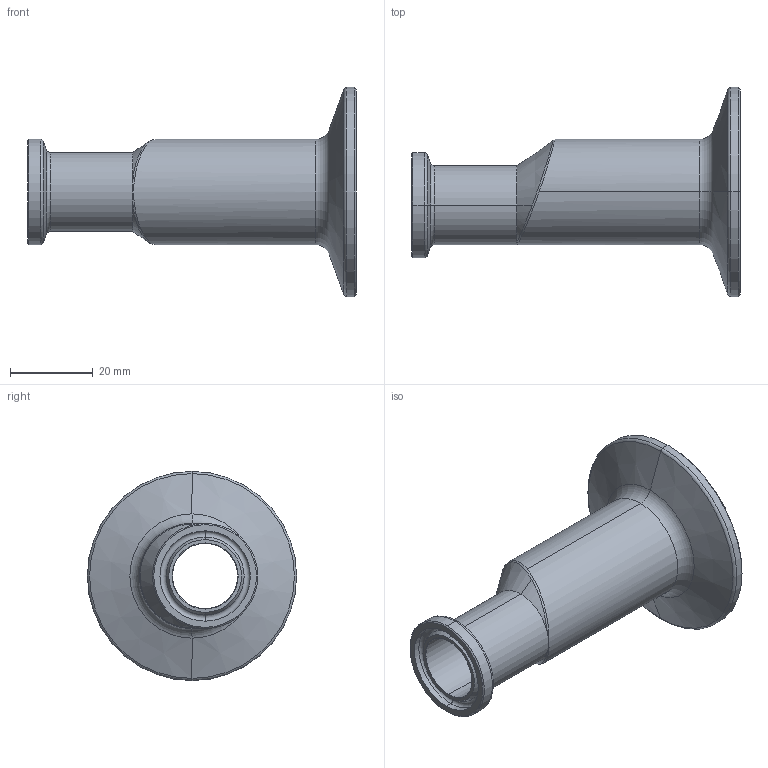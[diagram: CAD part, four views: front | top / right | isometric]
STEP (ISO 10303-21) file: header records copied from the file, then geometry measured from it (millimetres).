
FILE_DESCRIPTION (( 'STEP AP214' ), '1' );
FILE_NAME ('TEG32SCC6L1.0x.75-...STEP', '2016-06-01T12:37:21', ( 'eran' ), ( '' ), 'SwSTEP 2.0', 'SolidWorks 2016', '' );
FILE_SCHEMA (( 'AUTOMOTIVE_DESIGN' ));
Length unit declared in the file: millimetre
Products named in the file (1): TEG32SCC6L1.0x.75-..
Bounding box: 79.38 x 50.5 x 50.5 mm (x, y, z)
Volume: 22998.8 mm3; surface area: 13916 mm2
Topology: 1 solids, 1 shells, 63 faces, 132 edges, 73 vertices
Faces by surface type: cone 24, torus 19, cylinder 14, plane 4, bspline 2
Entity records: 2300 total; most frequent: CARTESIAN_POINT 899, DIRECTION 324, ORIENTED_EDGE 264, AXIS2_PLACEMENT_3D 144, EDGE_CURVE 132, CIRCLE 82, VERTEX_POINT 73, EDGE_LOOP 67
